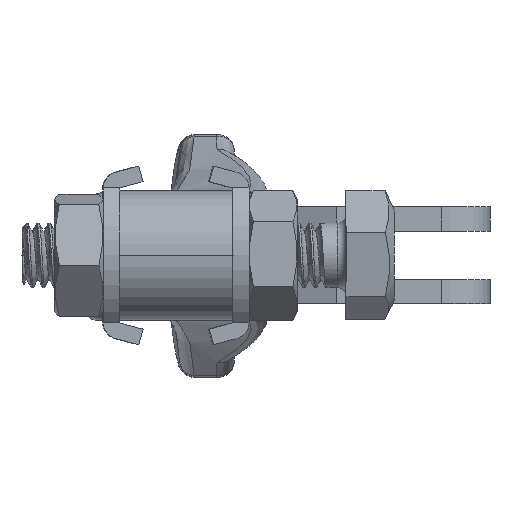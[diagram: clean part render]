
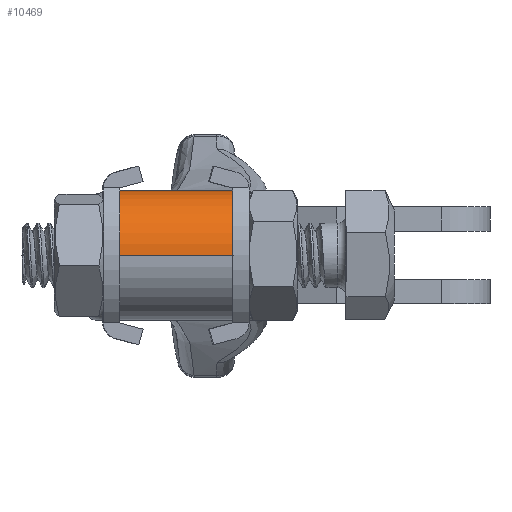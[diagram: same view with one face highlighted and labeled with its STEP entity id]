
A CAD part, left-side view. The second image highlights one B-rep face of the part: STEP entity #10469.
In plain terms, the highlighted cylindrical face has radius 4 mm (diameter 8.001 mm), a partial arc.
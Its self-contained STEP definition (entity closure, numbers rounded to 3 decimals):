
#1449=FACE_OUTER_BOUND('',#2061,.T.);
#2061=EDGE_LOOP('',(#8799,#8800,#8801,#8802));
#2900=LINE('',#22943,#3736);
#2902=LINE('',#22949,#3738);
#3736=VECTOR('',#12698,1000.);
#3738=VECTOR('',#12704,1000.);
#4057=CIRCLE('',#11140,4.);
#4058=CIRCLE('',#11141,4.);
#4905=VERTEX_POINT('',#22940);
#4906=VERTEX_POINT('',#22942);
#4907=VERTEX_POINT('',#22946);
#4908=VERTEX_POINT('',#22948);
#6272=EDGE_CURVE('',#4906,#4905,#2900,.T.);
#6274=EDGE_CURVE('',#4905,#4907,#4057,.T.);
#6275=EDGE_CURVE('',#4908,#4907,#2902,.T.);
#6276=EDGE_CURVE('',#4908,#4906,#4058,.T.);
#8799=ORIENTED_EDGE('',*,*,#6272,.T.);
#8800=ORIENTED_EDGE('',*,*,#6274,.T.);
#8801=ORIENTED_EDGE('',*,*,#6275,.F.);
#8802=ORIENTED_EDGE('',*,*,#6276,.T.);
#10025=CYLINDRICAL_SURFACE('',#11139,4.);
#10469=ADVANCED_FACE('',(#1449),#10025,.T.);
#11139=AXIS2_PLACEMENT_3D('',#22945,#12700,#12701);
#11140=AXIS2_PLACEMENT_3D('',#22947,#12702,#12703);
#11141=AXIS2_PLACEMENT_3D('',#22950,#12705,#12706);
#12698=DIRECTION('',(0.,0.,-1.));
#12700=DIRECTION('center_axis',(0.,0.,-1.));
#12701=DIRECTION('ref_axis',(-1.,0.,0.));
#12702=DIRECTION('center_axis',(0.,0.,1.));
#12703=DIRECTION('ref_axis',(1.,0.,0.));
#12704=DIRECTION('',(0.,0.,-1.));
#12705=DIRECTION('center_axis',(0.,0.,-1.));
#12706=DIRECTION('ref_axis',(-1.,0.,0.));
#22940=CARTESIAN_POINT('',(-28.8,0.,2.7));
#22942=CARTESIAN_POINT('',(-28.8,0.,9.7));
#22943=CARTESIAN_POINT('',(-28.8,0.,12.4));
#22945=CARTESIAN_POINT('Origin',(-24.8,0.,
12.4));
#22946=CARTESIAN_POINT('',(-24.8,-4.,2.7));
#22947=CARTESIAN_POINT('Origin',(-24.8,0.,
2.7));
#22948=CARTESIAN_POINT('',(-24.8,-4.,9.7));
#22949=CARTESIAN_POINT('',(-24.8,-4.,12.4));
#22950=CARTESIAN_POINT('Origin',(-24.8,0.,
9.7));
